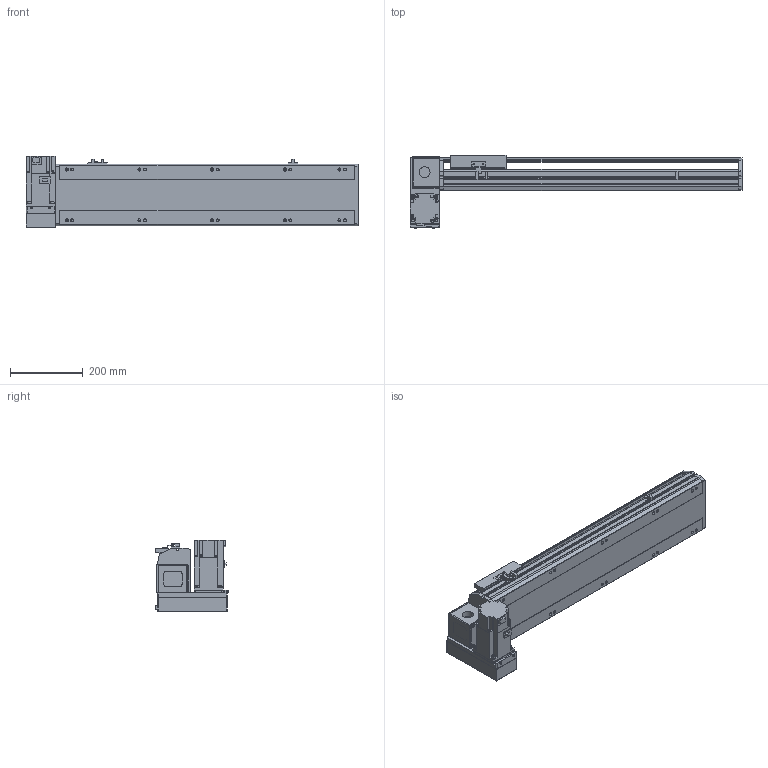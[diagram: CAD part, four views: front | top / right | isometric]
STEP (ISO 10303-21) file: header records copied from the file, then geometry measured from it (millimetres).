
FILE_DESCRIPTION(/* description */ ('STEP AP214'),/* implementation_level */ '2;1');
FILE_NAME(/* name */ 'PBS170-P40-S550-LD-T75-C1-N(0)',/* time_stamp */ '2022-06-07T09:50:45+02:00',/* author */ ('License CC BY-ND 4.0'),/* organization */ ('CADENAS'),/* preprocessor_version */ 'ST-DEVELOPER v18.102',/* originating_system */ 'PARTsolutions',/* authorisation */ ' ');
FILE_SCHEMA (('AUTOMOTIVE_DESIGN {1 0 10303 214 3 1 1}'));
Length unit declared in the file: millimetre
Products named in the file (7): PBS170-P40-S550-LD-T75-C1-N(0); PBS170_sensor; PBS170_plant; PBS170_sliser; T75-p1; PBS170T-LD_motors; PBS170-S550()_body
Assembly tree (8 placements, depth 2):
  PBS170-P40-S550-LD-T75-C1-N(0)
    PBS170_sensor  x3
    PBS170_plant
    PBS170_sliser
    T75-p1
    PBS170T-LD_motors
    PBS170-S550()_body
Bounding box: 913 x 201 x 197.3 mm (x, y, z)
Volume: 7784619.3 mm3; surface area: 1053094.7 mm2
Topology: 8 solids, 8 shells, 1034 faces, 2755 edges, 1796 vertices
Faces by surface type: plane 669, cylinder 315, cone 40, sphere 8, torus 2
Full cylindrical faces by diameter (mm): 3.242 x4, 4 x2, 4.4 x4, 4.5 x6, 4.917 x4, 6 x9, 6.647 x18, 7 x2, 7.5 x4, 8 x8, 8.5 x10, 10 x4, 10.5 x10, 11 x2, 30 x2, 40 x1, 70 x1
Entity records: 29744 total; most frequent: CARTESIAN_POINT 5377, DIRECTION 5090, ORIENTED_EDGE 4848, EDGE_CURVE 2424, AXIS2_PLACEMENT_3D 1747, VERTEX_POINT 1658, LINE 1596, VECTOR 1596
